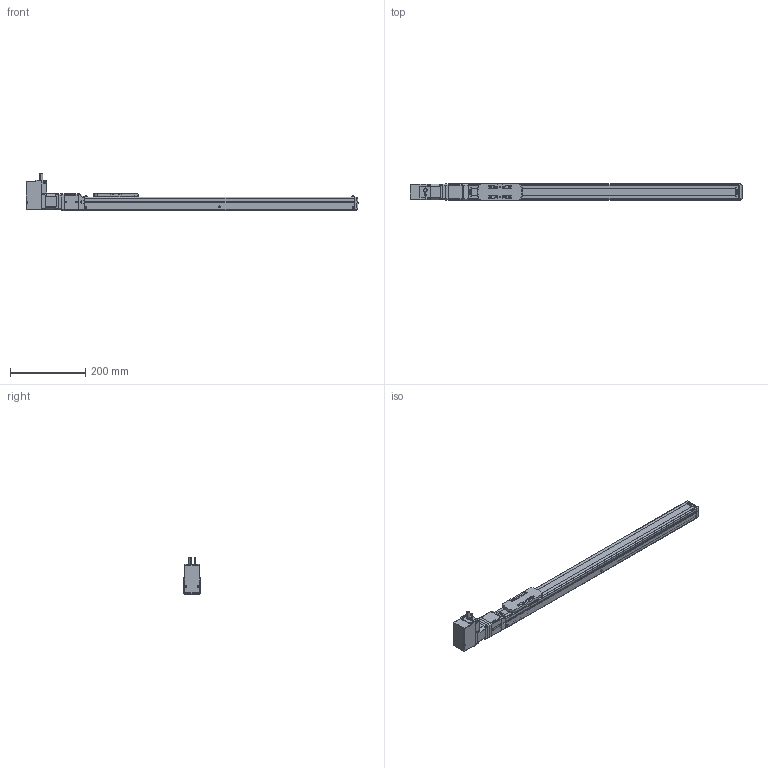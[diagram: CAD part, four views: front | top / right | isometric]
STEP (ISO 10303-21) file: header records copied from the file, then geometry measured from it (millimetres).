
FILE_DESCRIPTION(('FreeCAD Model'),'2;1');
FILE_NAME('Open CASCADE Shape Model','2023-08-01T17:57:33',('Author'),( ''),'Open CASCADE STEP processor 7.5','FreeCAD','Unknown');
FILE_SCHEMA(('AUTOMOTIVE_DESIGN { 1 0 10303 214 1 1 1 1 }'));
Length unit declared in the file: millimetre
Products named in the file (20): RCB0411; Shapes; Shapes001; Shapes002; Shapes003; Shapes004; Shapes005; Shapes006; Shapes007; Shapes008; Shapes009; Shapes010; Shapes011; Shapes012; Shapes013; KSF4-10-0550-0-AR(0); KSF4---(Cover); KSF4-AR---(Motor bracket); KSF4-10-0550---(slider); KSF4-10-0550-0-AR-(05500ARNo0)---(body)
Assembly tree (19 placements, depth 3):
  RCB0411
    Shapes
    Shapes001
    Shapes002
    Shapes003
    Shapes004
    Shapes005
    Shapes006
    Shapes007
    Shapes008
    Shapes009
    Shapes010
    Shapes011
    Shapes012
    Shapes013
    KSF4-10-0550-0-AR(0)
      KSF4---(Cover)
      KSF4-AR---(Motor bracket)
      KSF4-10-0550---(slider)
      KSF4-10-0550-0-AR-(05500ARNo0)---(body)
Bounding box: 882 x 45.4 x 99.34 mm (x, y, z)
Volume: 1413152.6 mm3; surface area: 268247.7 mm2
Topology: 18 solids, 18 shells, 1261 faces, 3260 edges, 2126 vertices
Faces by surface type: plane 687, cylinder 428, cone 66, torus 51, bspline 19, revolution 6, sphere 4
Full cylindrical faces by diameter (mm): 2.113 x8, 2.459 x3, 3 x6, 3.242 x4, 3.4 x16, 4 x3, 4.5 x2, 5.5 x8, 6 x1, 6.5 x18, 8 x1, 12 x1, 22 x1, 28 x1, 30 x2
Entity records: 92510 total; most frequent: CARTESIAN_POINT 26716, DIRECTION 12367, LINE 7311, VECTOR 7311, ORIENTED_EDGE 6484, PCURVE 6484, DEFINITIONAL_REPRESENTATION 6484, EDGE_CURVE 3242
